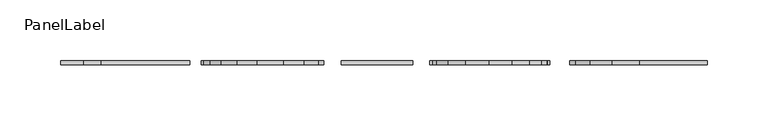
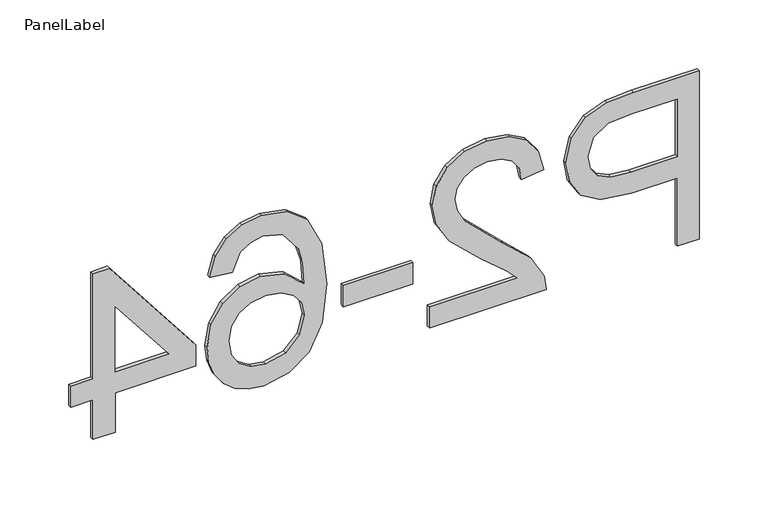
"""IFC4 building model written with IfcOpenShell, lengths in millimetres: fastener geometry, PanelLabel : Miranda."""

from ifc_helpers import new_model, si_unit, frame, origin, place, context, project, spatial, polyline, outline, extrude, source, transform, mapped, element, save


def panellabel_82f71f91(model_context):
    return source(origin(), model_context, "Body", "SweptSolid", [
        extrude(outline(polyline([(1310.9113766, 260.2523077), (1460.9667612, 260.2523077), (1460.9667612, 204.6409615), (1459.5380112, 182.2205769), (1452.5224823, 163.9948558), (1438.0151747, 152.1801923), (1417.554742, 147.7107692), (1399.8693814, 150.7285457), (1385.1331073, 159.781875), (1375.1868093, 176.7116466), (1371.8713766, 203.35875), (1371.8713766, 241.4953846), (1310.9113766, 241.4953846), (1310.9113766, 260.2523077)]), holes=[polyline([(1390.6282997, 241.4953846), (1390.6282997, 202.2597115), (1392.3501266, 185.6275962), (1397.5156073, 174.6372115), (1405.8041891, 168.5100721), (1416.8953189, 166.4676923), (1432.4283958, 171.2851442), (1440.9276266, 183.9424038), (1442.2098381, 202.6993269), (1442.2098381, 241.4953846), (1390.6282997, 241.4953846)])]), frame((0.0, 60.325, 0.0), z_axis=(0.0, 1.0, 0.0), x_axis=(0.0, 0.0, 1.0)), (0.0, 0.0, 1.0), 3.175),
        extrude(outline(polyline([(1329.6682997, 32.8246154), (1310.9113766, 32.8246154), (1310.9113766, 131.2984615), (1323.8433958, 129.2835577), (1343.7543093, 117.8901923), (1365.4969535, 94.4074038), (1396.7462804, 62.0224038), (1407.5168573, 55.9502163), (1417.9943573, 53.9261538), (1427.3865569, 55.8357332), (1435.1943093, 61.5644712), (1440.4559559, 70.3705168), (1442.2098381, 81.5120192), (1440.4971698, 93.2121995), (1435.359165, 102.3021635), (1427.1988045, 108.1682813), (1416.4190689, 110.1969231), (1418.7636843, 128.9538462), (1436.9069775, 124.4065745), (1450.1595497, 114.5747596), (1458.2649583, 99.9712861), (1460.9667612, 81.1090385), (1457.9627227, 62.1094111), (1448.9506073, 47.5334135), (1435.4873862, 38.2602764), (1419.1300304, 35.1692308), (1401.3439247, 38.5029808), (1382.9533477, 49.5849519), (1357.254165, 76.4564423), (1339.211617, 98.0342308), (1329.6682997, 106.4968269), (1329.6682997, 32.8246154)])), frame((0.0, 60.325, 0.0), z_axis=(0.0, 1.0, 0.0), x_axis=(0.0, 0.0, 1.0)), (0.0, 0.0, 1.0), 3.175),
        extrude(outline(polyline([(-39.8584615, 63.5), (18.7569231, 63.5), (18.7569231, 60.325), (-39.8584615, 60.325), (-39.8584615, 63.5)])), frame((0.0, 0.0, 1355.4590689), z_axis=(0.0, 0.0, 1.0), x_axis=(1.0, 0.0, 0.0)), (0.0, 0.0, 1.0), 18.7569231),
        extrude(outline(polyline([(1421.1082997, -152.4), (1418.7636843, -133.6430769), (1434.406665, -126.5359615), (1440.2590448, -118.0275721), (1442.2098381, -107.7424038), (1437.6671458, -90.8172115), (1420.6137323, -78.0134135), (1406.6422059, -74.1255649), (1387.1846458, -72.6830769), (1402.1498862, -89.2236058), (1407.0406073, -109.7206731), (1403.6976987, -127.0488462), (1393.6689727, -141.5927885), (1378.3465448, -151.4566587), (1359.1225304, -154.7446154), (1345.6913646, -153.1968029), (1333.2401747, -148.5533654), (1322.6802468, -141.1989663), (1314.922867, -131.5182692), (1310.1557876, -119.9508894), (1308.5667612, -106.9364423), (1312.779742, -85.6563101), (1325.4186843, -68.7082212), (1347.729165, -57.6216707), (1380.9567612, -53.9261538), (1418.3149102, -58.0292308), (1443.8583958, -70.3384615), (1456.6896698, -87.1445913), (1460.9667612, -108.9147115), (1458.3199102, -125.3728125), (1450.3793573, -138.5521154), (1437.767891, -147.7840385), (1421.1082997, -152.4)]), holes=[polyline([(1359.4156073, -72.6830769), (1343.1681554, -77.0242788), (1331.3718093, -88.5641827), (1327.3236843, -105.4710577), (1329.421016, -117.8489784), (1335.7130112, -127.5800481), (1345.6043573, -133.8857812), (1358.499742, -135.9876923), (1370.8776626, -133.9132572), (1380.3156554, -127.6899519), (1386.2916771, -117.7940264), (1388.2836843, -104.7017308), (1386.2916771, -92.3421274), (1380.3156554, -82.0065865), (1371.106629, -75.0139543), (1359.4156073, -72.6830769)])]), frame((0.0, 60.325, 0.0), z_axis=(0.0, 1.0, 0.0), x_axis=(0.0, 0.0, 1.0)), (0.0, 0.0, 1.0), 3.175),
        extrude(outline(polyline([(1310.9113766, -232.1169231), (1346.0806073, -232.1169231), (1346.0806073, -164.1230769), (1364.8375304, -164.1230769), (1458.6221458, -236.8061538), (1458.6221458, -250.8738462), (1364.8375304, -250.8738462), (1364.8375304, -269.6307692), (1346.0806073, -269.6307692), (1346.0806073, -250.8738462), (1310.9113766, -250.8738462), (1310.9113766, -232.1169231)]), holes=[polyline([(1364.8375304, -232.1169231), (1422.793492, -232.1169231), (1364.8375304, -187.2028846), (1364.8375304, -232.1169231)])]), frame((0.0, 60.325, 0.0), z_axis=(0.0, 1.0, 0.0), x_axis=(0.0, 0.0, 1.0)), (0.0, 0.0, 1.0), 3.175),
    ])


if __name__ == "__main__":
    model = new_model("IFC4")
    model_context = context("Model", 3, world=origin())
    ifc_project = project(units=[si_unit("LENGTHUNIT", "METRE", prefix="MILLI")], contexts=[model_context])
    site = spatial("IfcSite", under=ifc_project)
    building = spatial("IfcBuilding", under=site)
    placement = place(None, origin())
    panellabel_shape = panellabel_82f71f91(model_context)
    element("IfcFastener", 1, ObjectType="PanelLabel : Miranda", at=placement, inside=building, context=model_context, shape_type="MappedRepresentation", body=[
        mapped(panellabel_shape, transform((0.0, 0.0, 0.0), x_axis=(1.0, 0.0, 0.0), y_axis=(0.0, 1.0, 0.0), z_axis=(0.0, 0.0, 1.0))),
    ])
    save(model, "model.ifc")
